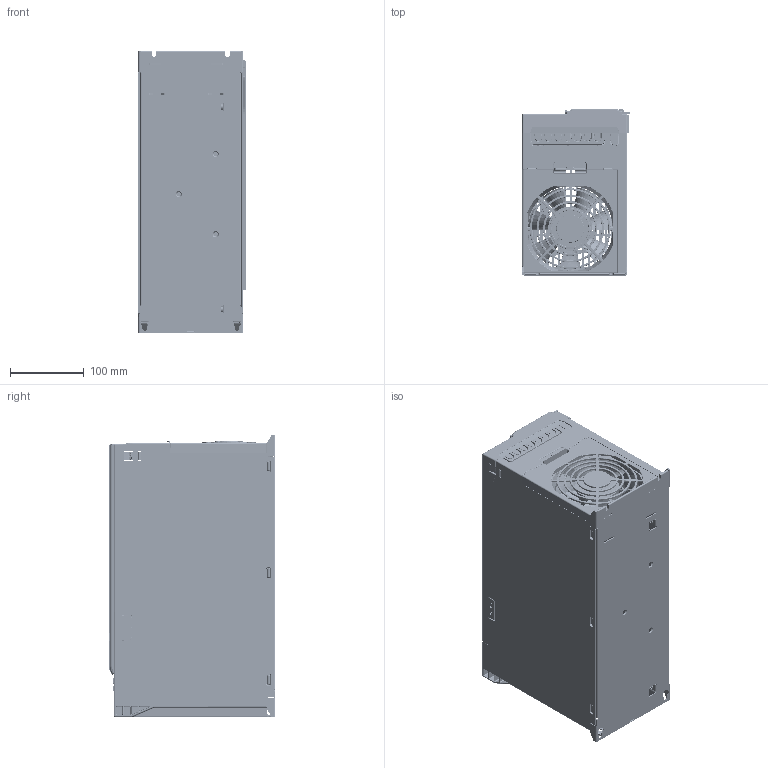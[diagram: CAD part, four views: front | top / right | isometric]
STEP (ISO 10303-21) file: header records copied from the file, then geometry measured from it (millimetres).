
FILE_DESCRIPTION(/* description */ (''),/* implementation_level */ '2;1');
FILE_NAME(/* name */ 'C:\Users\U390257\OneDrive - Danfoss\Documents\Работа\Текущие задачи\2022.04.26 Veichi 3D\Готовые модели\ac300-t3-015_022-3d\ac300-t3-015_022-3d.stp',/* time_stamp */ '2022-04-27T14:43:57+03:00',/* author */ ('U390257'),/* organization */ (''),/* preprocessor_version */ 'ST-DEVELOPER v18.1',/* originating_system */ 'Autodesk Inventor 2020',/* authorisation */ '');
FILE_SCHEMA (('AUTOMOTIVE_DESIGN { 1 0 10303 214 3 1 1 }'));
Products named in the file (1): ac300-t3-015_022-3d
Bounding box: 146.1 x 226.25 x 383 mm (x, y, z)
Volume: 1378944.5 mm3; surface area: 1238472.9 mm2
Topology: 122 solids, 123 shells, 17006 faces, 45164 edges, 28909 vertices
Faces by surface type: plane 10097, bspline 3789, cylinder 2779, torus 157, cone 127, sphere 57
Full cylindrical faces by diameter (mm): 0.1 x4, 0.2 x30, 0.5 x22, 0.762 x8, 0.9 x8, 1 x18, 1.3 x8, 1.5 x12, 1.6 x2, 2 x2, 2.1 x1, 2.5 x1, 2.6 x4, 3 x15, 3.5 x1, 3.6 x2, 3.8 x22, 4.4 x2, 4.5 x10, 4.6 x1, 5 x2, 5.2 x2, 5.38 x2, 5.4 x3, 5.5 x1, 5.9 x2, 6 x10, 6.35 x3, 6.4 x9, 7 x7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
Entity records: 617371 total; most frequent: CARTESIAN_POINT 203785, ORIENTED_EDGE 90268, DIRECTION 77061, EDGE_CURVE 45134, LINE 31151, VECTOR 31151, VERTEX_POINT 28909, AXIS2_PLACEMENT_3D 22955
